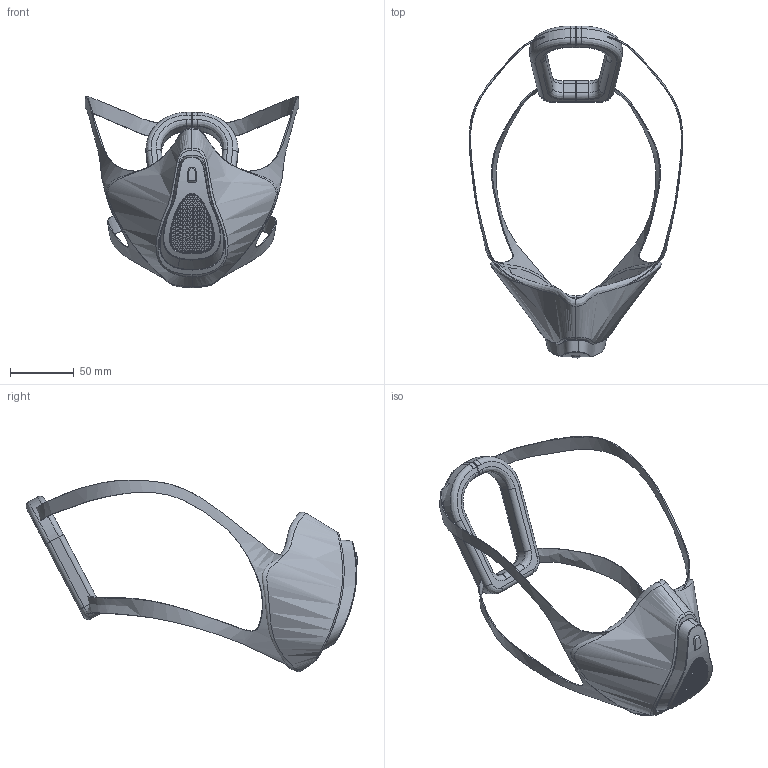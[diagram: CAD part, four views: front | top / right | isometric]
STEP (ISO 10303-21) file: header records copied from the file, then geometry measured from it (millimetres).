
FILE_DESCRIPTION(/* description */ (''),/* implementation_level */ '2;1');
FILE_NAME(/* name */ '마스크',/* time_stamp */ '2018-10-02T10:08:59+09:00',/* author */ (''),/* organization */ (''),/* preprocessor_version */ 'ST-DEVELOPER v15',/* originating_system */ '',/* authorisation */ '');
FILE_SCHEMA (('AUTOMOTIVE_DESIGN'));
Length unit declared in the file: millimetre
Products named in the file (1): Document
Bounding box: 167.29 x 260.34 x 150.44 mm (x, y, z)
Volume: 142628.3 mm3; surface area: 103975.4 mm2
Topology: 8 solids, 13 shells, 2014 faces, 5823 edges, 3825 vertices
Faces by surface type: plane 1578, bspline 436
Entity records: 92217 total; most frequent: CARTESIAN_POINT 54095, ORIENTED_EDGE 11625, EDGE_CURVE 5821, B_SPLINE_CURVE_WITH_KNOTS 5227, VERTEX_POINT 3825, EDGE_LOOP 2317, ADVANCED_FACE 2014, FACE_OUTER_BOUND 2014
